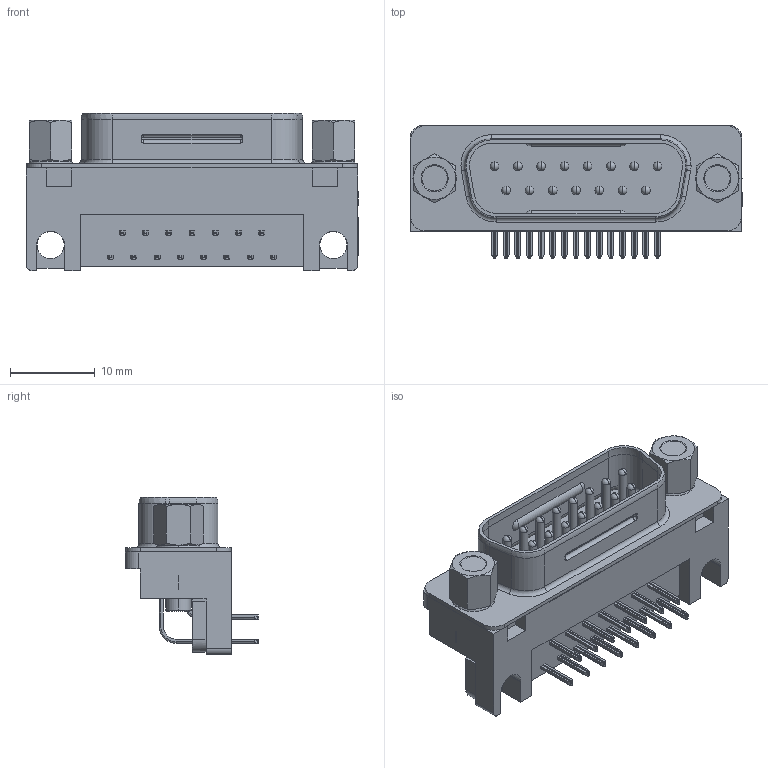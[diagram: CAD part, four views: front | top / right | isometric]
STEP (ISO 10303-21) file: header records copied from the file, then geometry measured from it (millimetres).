
FILE_DESCRIPTION (( 'STEP AP203' ), '1' );
FILE_NAME ('17LE-23150-27(D4BD)-FA.STEP', '2022-01-31T05:35:01', ( '' ), ( '' ), 'SwSTEP 2.0', 'SolidWorks 2018', '' );
FILE_SCHEMA (( 'CONFIG_CONTROL_DESIGN' ));
Length unit declared in the file: millimetre
Products named in the file (1): 17LE-23150-27(D4BD)-FA
Bounding box: 39.12 x 15.69 x 18.53 mm (x, y, z)
Volume: 3515.1 mm3; surface area: 4424.6 mm2
Topology: 1 solids, 5 shells, 1015 faces, 2710 edges, 1715 vertices
Faces by surface type: plane 456, cylinder 383, torus 126, sphere 34, cone 16
Entity records: 32109 total; most frequent: CARTESIAN_POINT 6307, DIRECTION 5560, ORIENTED_EDGE 5344, EDGE_CURVE 2672, AXIS2_PLACEMENT_3D 2008, VERTEX_POINT 1711, LINE 1544, VECTOR 1544
